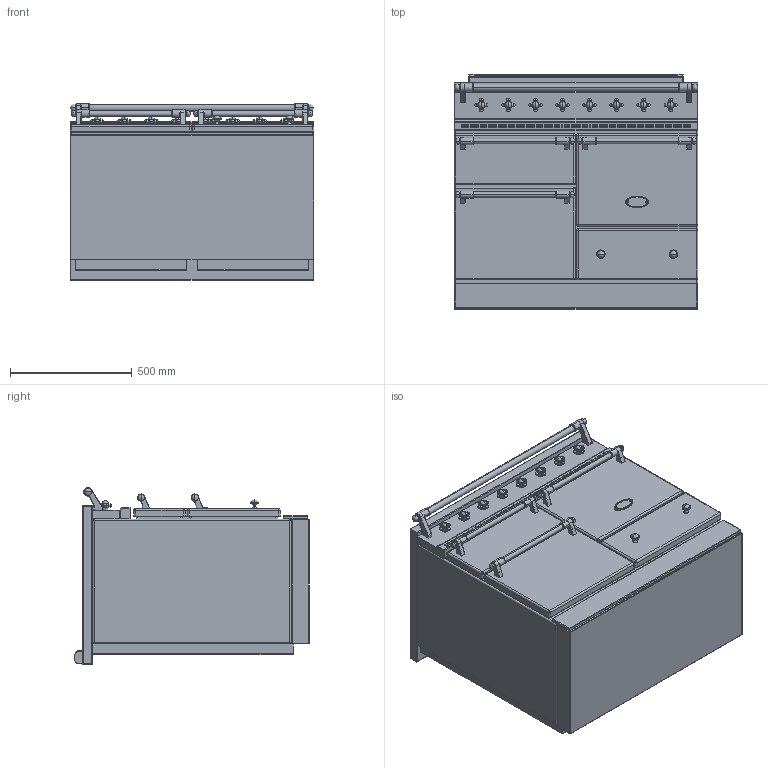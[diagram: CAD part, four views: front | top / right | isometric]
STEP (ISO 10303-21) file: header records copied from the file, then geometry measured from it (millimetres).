
FILE_DESCRIPTION((''),'2;1');
FILE_NAME('LVI1053_ASM','2021-12-02T10:04:58',('j.cheno'),(''),'CREO PARAMETRIC BY PTC INC, 2017260','CREO PARAMETRIC BY PTC INC, 2017260','');
FILE_SCHEMA(('AP203_CONFIGURATION_CONTROLLED_3D_DESIGN_OF_MECHANICAL_PARTS_AND_ASSEMBLIES_MIM_LF { 1 0 10303 403 2 1 2 }'));
Products named in the file (18): BASE_EXPORT_CHAGNY; 65650003; 65650004; 6531940; 6531941; 6538399; 1931942; 65080022_AF0; 6531942_ASM; 6531943; 65049009; 65650001; BASE_EXPORT_CHAGNY_ASM; TABLE_1000_INDUCTION; 65052013; CHEMINEE_2020_LG882_EXPORT_STEP; TABLE_1000_INDUCTION_ASM; LVI1053_ASM
Assembly tree (29 placements, depth 4):
  LVI1053_ASM
    BASE_EXPORT_CHAGNY_ASM
      BASE_EXPORT_CHAGNY
      65650003
      65650004
      6531940  x3
      6531941  x3
      6531942_ASM  x8
        6538399
        1931942
        65080022_AF0
      6531943  x2
      65049009
      65650001
    TABLE_1000_INDUCTION_ASM
      TABLE_1000_INDUCTION
      65052013
      CHEMINEE_2020_LG882_EXPORT_STEP
Bounding box: 1000 x 963 x 724 mm (x, y, z)
Volume: 542717486.5 mm3; surface area: 9034473.4 mm2
Topology: 47 solids, 57 shells, 5347 faces, 14441 edges, 9250 vertices
Faces by surface type: plane 2865, cylinder 1628, torus 230, extrusion 226, sphere 198, cone 98, bspline 86, revolution 16
Entity records: 113836 total; most frequent: CARTESIAN_POINT 24551, ORIENTED_EDGE 16130, DIRECTION 15268, EDGE_CURVE 8075, VECTOR 5559, LINE 5529, VERTEX_POINT 5247, AXIS2_PLACEMENT_3D 4825
